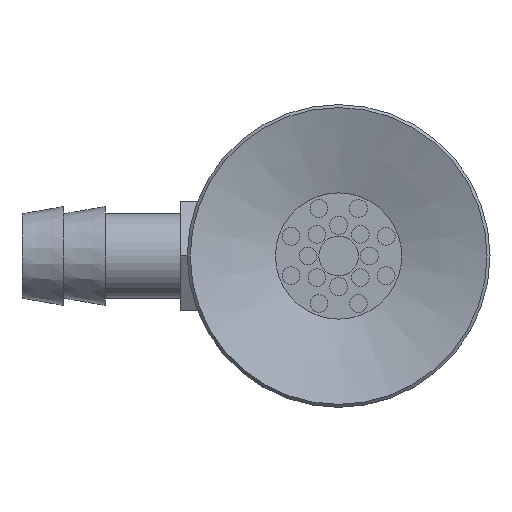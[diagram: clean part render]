
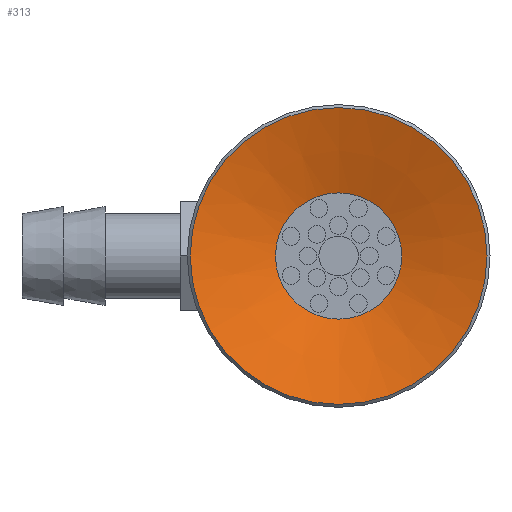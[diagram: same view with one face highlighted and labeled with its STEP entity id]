
A CAD part, front view. The second image highlights one B-rep face of the part: STEP entity #313.
In plain terms, the highlighted conical face has half-angle 72 degrees and reference radius 7.5 mm.
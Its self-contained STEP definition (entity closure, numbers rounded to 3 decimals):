
#313=ADVANCED_FACE('',(#596,#597),#598,.F.);
#596=FACE_BOUND('',#880,.T.);
#597=FACE_OUTER_BOUND('',#881,.T.);
#598=CONICAL_SURFACE('',#882,7.5,1.257);
#880=EDGE_LOOP('',(#1470));
#881=EDGE_LOOP('',(#1471));
#882=AXIS2_PLACEMENT_3D('',#1472,#1473,#1474);
#1470=ORIENTED_EDGE('',*,*,#1601,.T.);
#1471=ORIENTED_EDGE('',*,*,#1583,.F.);
#1472=CARTESIAN_POINT('',(0.0,0.,0.));
#1473=DIRECTION('',(0.0,0.,-1.0));
#1474=DIRECTION('',(0.0,1.0,0.));
#1583=EDGE_CURVE('',#1804,#1804,#1805,.T.);
#1601=EDGE_CURVE('',#1840,#1840,#1841,.T.);
#1804=VERTEX_POINT('',#2356);
#1805=CIRCLE('',#2357,7.5);
#1840=VERTEX_POINT('',#2392);
#1841=CIRCLE('',#2393,3.191);
#2356=CARTESIAN_POINT('',(0.0,-7.5,0.));
#2357=AXIS2_PLACEMENT_3D('',#2612,#2613,#2614);
#2392=CARTESIAN_POINT('',(0.0,-3.191,1.4));
#2393=AXIS2_PLACEMENT_3D('',#2666,#2667,#2668);
#2612=CARTESIAN_POINT('',(0.0,0.,0.));
#2613=DIRECTION('',(0.0,0.,1.0));
#2614=DIRECTION('',(0.0,-1.0,0.));
#2666=CARTESIAN_POINT('',(0.0,0.,1.4));
#2667=DIRECTION('',(0.0,0.,1.0));
#2668=DIRECTION('',(0.0,-1.0,0.));
